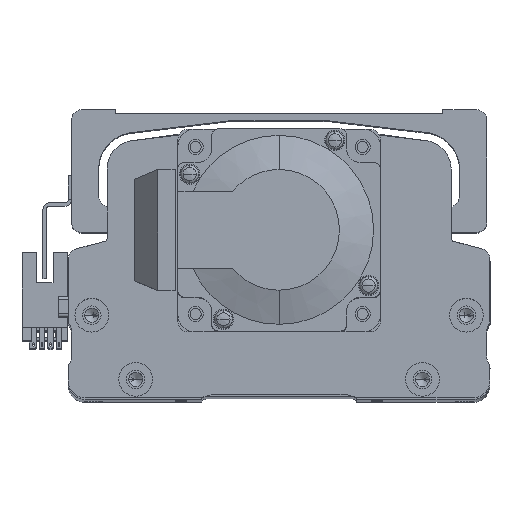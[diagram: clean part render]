
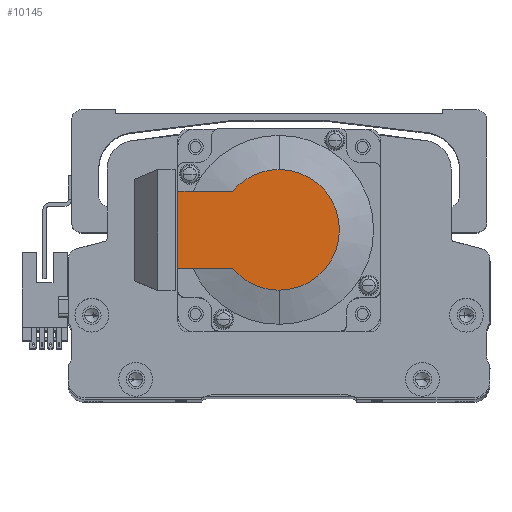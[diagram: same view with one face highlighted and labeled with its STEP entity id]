
A CAD part, top view. The second image highlights one B-rep face of the part: STEP entity #10145.
In plain terms, the highlighted planar face has unit normal (0, 0, 1) as drawn and (-1, 0, 0) by its records, which use the part's own axes.
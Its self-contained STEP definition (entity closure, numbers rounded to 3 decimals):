
#241 = ORIENTED_EDGE ( 'NONE', *, *, #33594, .T. ) ;
#548 = CARTESIAN_POINT ( 'NONE',  ( -118.5, 0., -17.881 ) ) ;
#1011 = EDGE_CURVE ( 'NONE', #42348, #18907, #30169, .T. ) ;
#1075 = DIRECTION ( 'NONE',  ( 0., 0., -1. ) ) ;
#1337 = CARTESIAN_POINT ( 'NONE',  ( -118.5, 0., 11.45 ) ) ;
#3423 = CARTESIAN_POINT ( 'NONE',  ( -118.5, -8.941, 0. ) ) ;
#3916 = ORIENTED_EDGE ( 'NONE', *, *, #18968, .T. ) ;
#5238 = EDGE_CURVE ( 'NONE', #42348, #21859, #18251, .T. ) ;
#5887 = CARTESIAN_POINT ( 'NONE',  ( -118.5, 0., 17.881 ) ) ;
#7199 = VECTOR ( 'NONE', #24100, 1000. ) ;
#7620 = DIRECTION ( 'NONE',  ( 0., 0., 1. ) ) ;
#10145 = ADVANCED_FACE ( 'NONE', ( #43694 ), #11663, .T. ) ;
#10184 = CIRCLE ( 'NONE', #10500, 17.881 ) ;
#10500 = AXIS2_PLACEMENT_3D ( 'NONE', #15024, #44217, #19192 ) ;
#10741 = DIRECTION ( 'NONE',  ( -1., 0., 0. ) ) ;
#11663 = PLANE ( 'NONE',  #40589 ) ;
#15024 = CARTESIAN_POINT ( 'NONE',  ( -118.5, 0., 0. ) ) ;
#17267 = CARTESIAN_POINT ( 'NONE',  ( -118.5, 13.735, -11.45 ) ) ;
#17745 = VECTOR ( 'NONE', #52958, 1000. ) ;
#18251 = LINE ( 'NONE', #53377, #7199 ) ;
#18907 = VERTEX_POINT ( 'NONE', #17267 ) ;
#18968 = EDGE_CURVE ( 'NONE', #42428, #41914, #44015, .T. ) ;
#19192 = DIRECTION ( 'NONE',  ( 0., 0., -1. ) ) ;
#20306 = ORIENTED_EDGE ( 'NONE', *, *, #31671, .F. ) ;
#20977 = VECTOR ( 'NONE', #51354, 1000. ) ;
#21859 = VERTEX_POINT ( 'NONE', #28054 ) ;
#22182 = ORIENTED_EDGE ( 'NONE', *, *, #5238, .F. ) ;
#24100 = DIRECTION ( 'NONE',  ( 0., 0., 1. ) ) ;
#25630 = ORIENTED_EDGE ( 'NONE', *, *, #1011, .T. ) ;
#26045 = DIRECTION ( 'NONE',  ( -1., 0., 0. ) ) ;
#26343 = EDGE_CURVE ( 'NONE', #27769, #42428, #35353, .T. ) ;
#27769 = VERTEX_POINT ( 'NONE', #548 ) ;
#28054 = CARTESIAN_POINT ( 'NONE',  ( -118.5, 30., 11.45 ) ) ;
#30169 = LINE ( 'NONE', #44476, #17745 ) ;
#31671 = EDGE_CURVE ( 'NONE', #21859, #41914, #43144, .T. ) ;
#32621 = DIRECTION ( 'NONE',  ( -1., 0., 0. ) ) ;
#33594 = EDGE_CURVE ( 'NONE', #18907, #27769, #10184, .T. ) ;
#35353 = CIRCLE ( 'NONE', #41453, 17.881 ) ;
#35732 = CARTESIAN_POINT ( 'NONE',  ( -118.5, 0., 0. ) ) ;
#36203 = CARTESIAN_POINT ( 'NONE',  ( -118.5, 13.735, 11.45 ) ) ;
#39875 = DIRECTION ( 'NONE',  ( 0., 0., -1. ) ) ;
#40589 = AXIS2_PLACEMENT_3D ( 'NONE', #3423, #32621, #7620 ) ;
#41453 = AXIS2_PLACEMENT_3D ( 'NONE', #35732, #10741, #39875 ) ;
#41914 = VERTEX_POINT ( 'NONE', #36203 ) ;
#42348 = VERTEX_POINT ( 'NONE', #47473 ) ;
#42428 = VERTEX_POINT ( 'NONE', #5887 ) ;
#42760 = ORIENTED_EDGE ( 'NONE', *, *, #26343, .T. ) ;
#43144 = LINE ( 'NONE', #1337, #20977 ) ;
#43694 = FACE_OUTER_BOUND ( 'NONE', #49462, .T. ) ;
#44015 = CIRCLE ( 'NONE', #48794, 17.881 ) ;
#44217 = DIRECTION ( 'NONE',  ( -1., 0., 0. ) ) ;
#44476 = CARTESIAN_POINT ( 'NONE',  ( -118.5, -8.941, -11.45 ) ) ;
#47473 = CARTESIAN_POINT ( 'NONE',  ( -118.5, 30., -11.45 ) ) ;
#48794 = AXIS2_PLACEMENT_3D ( 'NONE', #51068, #26045, #1075 ) ;
#49462 = EDGE_LOOP ( 'NONE', ( #25630, #241, #42760, #3916, #20306, #22182 ) ) ;
#51068 = CARTESIAN_POINT ( 'NONE',  ( -118.5, 0., 0. ) ) ;
#51354 = DIRECTION ( 'NONE',  ( 0., -1., 0. ) ) ;
#52958 = DIRECTION ( 'NONE',  ( 0., -1., 0. ) ) ;
#53377 = CARTESIAN_POINT ( 'NONE',  ( -118.5, 30., 25. ) ) ;
